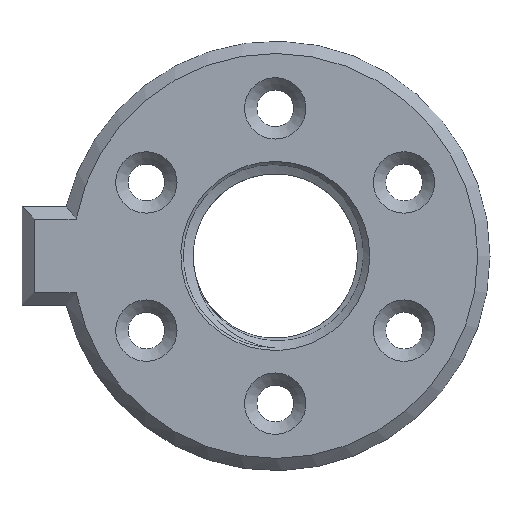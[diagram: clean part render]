
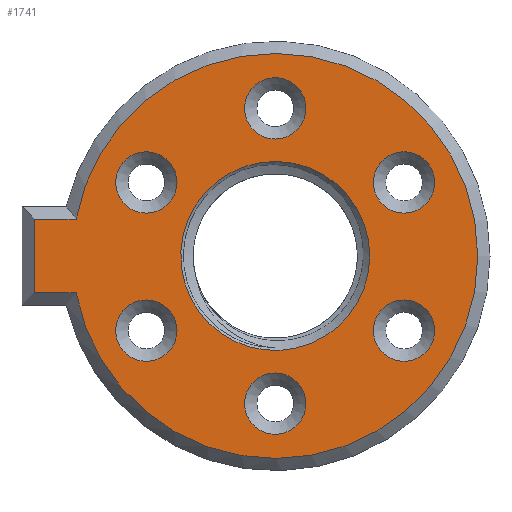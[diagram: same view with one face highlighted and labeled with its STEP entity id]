
A CAD part, top view. The second image highlights one B-rep face of the part: STEP entity #1741.
In plain terms, the highlighted planar face has unit normal (0, 0, 1).
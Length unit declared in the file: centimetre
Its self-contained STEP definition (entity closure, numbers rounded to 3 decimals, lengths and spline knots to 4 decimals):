
#104=VECTOR('',#587,1.);
#105=VECTOR('',#590,1.);
#106=VECTOR('',#591,1.);
#235=LINE('',#2322,#104);
#236=LINE('',#2327,#105);
#237=LINE('',#2329,#106);
#375=PLANE('',#468);
#434=CIRCLE('',#467,0.3175);
#435=CIRCLE('',#469,0.3175);
#436=CIRCLE('',#470,0.3175);
#437=CIRCLE('',#471,0.3175);
#438=CIRCLE('',#472,2.0955);
#439=CIRCLE('',#473,0.9779);
#440=CIRCLE('',#474,0.3175);
#441=CIRCLE('',#475,0.3175);
#467=AXIS2_PLACEMENT_3D('',#2313,#578,#579);
#468=AXIS2_PLACEMENT_3D('',#2315,#580,$);
#469=AXIS2_PLACEMENT_3D('',#2316,#581,#582);
#470=AXIS2_PLACEMENT_3D('',#2318,#583,#584);
#471=AXIS2_PLACEMENT_3D('',#2320,#585,#586);
#472=AXIS2_PLACEMENT_3D('',#2325,#588,#589);
#473=AXIS2_PLACEMENT_3D('',#2330,#592,#593);
#474=AXIS2_PLACEMENT_3D('',#2332,#594,#595);
#475=AXIS2_PLACEMENT_3D('',#2334,#596,#597);
#578=DIRECTION('',(0.,0.,1.));
#579=DIRECTION('',(-0.318,0.,0.));
#580=DIRECTION('',(0.,0.,1.));
#581=DIRECTION('',(0.,0.,1.));
#582=DIRECTION('',(-0.318,0.,0.));
#583=DIRECTION('',(0.,0.,1.));
#584=DIRECTION('',(-0.318,0.,0.));
#585=DIRECTION('',(0.,0.,1.));
#586=DIRECTION('',(-0.318,0.,0.));
#587=DIRECTION('',(-1.,0.,0.));
#588=DIRECTION('',(0.,0.,-1.));
#589=DIRECTION('',(2.095,-0.001,0.));
#590=DIRECTION('',(1.,0.,0.));
#591=DIRECTION('',(0.,1.,0.));
#592=DIRECTION('',(0.,0.,1.));
#593=DIRECTION('',(-0.978,0.,0.));
#594=DIRECTION('',(0.,0.,1.));
#595=DIRECTION('',(-0.318,0.,0.));
#596=DIRECTION('',(0.,0.,1.));
#597=DIRECTION('',(-0.318,0.,0.));
#868=VERTEX_POINT('',#2314);
#869=VERTEX_POINT('',#2317);
#870=VERTEX_POINT('',#2319);
#871=VERTEX_POINT('',#2321);
#872=VERTEX_POINT('',#2323);
#873=VERTEX_POINT('',#2324);
#874=VERTEX_POINT('',#2326);
#875=VERTEX_POINT('',#2328);
#876=VERTEX_POINT('',#2331);
#877=VERTEX_POINT('',#2333);
#878=VERTEX_POINT('',#2335);
#1002=EDGE_CURVE('',#868,#868,#434,.T.);
#1003=EDGE_CURVE('',#869,#869,#435,.T.);
#1004=EDGE_CURVE('',#870,#870,#436,.T.);
#1005=EDGE_CURVE('',#871,#871,#437,.T.);
#1006=EDGE_CURVE('',#872,#873,#235,.T.);
#1007=EDGE_CURVE('',#874,#872,#438,.T.);
#1008=EDGE_CURVE('',#875,#874,#236,.T.);
#1009=EDGE_CURVE('',#873,#875,#237,.T.);
#1010=EDGE_CURVE('',#876,#876,#439,.T.);
#1011=EDGE_CURVE('',#877,#877,#440,.T.);
#1012=EDGE_CURVE('',#878,#878,#441,.T.);
#1181=ORIENTED_EDGE('',*,*,#1003,.F.);
#1182=ORIENTED_EDGE('',*,*,#1004,.F.);
#1183=ORIENTED_EDGE('',*,*,#1005,.F.);
#1184=ORIENTED_EDGE('',*,*,#1006,.F.);
#1185=ORIENTED_EDGE('',*,*,#1007,.F.);
#1186=ORIENTED_EDGE('',*,*,#1008,.F.);
#1187=ORIENTED_EDGE('',*,*,#1009,.F.);
#1188=ORIENTED_EDGE('',*,*,#1010,.F.);
#1189=ORIENTED_EDGE('',*,*,#1011,.F.);
#1190=ORIENTED_EDGE('',*,*,#1012,.F.);
#1191=ORIENTED_EDGE('',*,*,#1002,.F.);
#1515=EDGE_LOOP('',(#1181));
#1516=EDGE_LOOP('',(#1182));
#1517=EDGE_LOOP('',(#1183));
#1518=EDGE_LOOP('',(#1184,#1185,#1186,#1187));
#1519=EDGE_LOOP('',(#1188));
#1520=EDGE_LOOP('',(#1189));
#1521=EDGE_LOOP('',(#1190));
#1522=EDGE_LOOP('',(#1191));
#1629=FACE_BOUND('',#1515,.T.);
#1630=FACE_BOUND('',#1516,.T.);
#1631=FACE_BOUND('',#1517,.T.);
#1632=FACE_BOUND('',#1518,.T.);
#1633=FACE_BOUND('',#1519,.T.);
#1634=FACE_BOUND('',#1520,.T.);
#1635=FACE_BOUND('',#1521,.T.);
#1636=FACE_BOUND('',#1522,.T.);
#1741=ADVANCED_FACE('',(#1629,#1630,#1631,#1632,#1633,#1634,#1635,#1636),
#375,.T.);
#2313=CARTESIAN_POINT('',(-1.3343,0.7607,0.508));
#2314=CARTESIAN_POINT('',(-1.0168,0.7607,0.508));
#2315=CARTESIAN_POINT('',(-0.3633,0.0001,0.508));
#2316=CARTESIAN_POINT('',(0.,-1.5287,0.508));
#2317=CARTESIAN_POINT('',(0.3175,-1.5287,0.508));
#2318=CARTESIAN_POINT('',(1.333,-0.7729,0.508));
#2319=CARTESIAN_POINT('',(1.6505,-0.7729,0.508));
#2320=CARTESIAN_POINT('',(0.,1.5275,0.508));
#2321=CARTESIAN_POINT('',(0.3175,1.5275,0.508));
#2322=CARTESIAN_POINT('',(-1.3778,-0.3802,0.508));
#2323=CARTESIAN_POINT('',(-2.0607,-0.3802,0.508));
#2324=CARTESIAN_POINT('',(-2.494,-0.3802,0.508));
#2325=CARTESIAN_POINT('',(0.,0.,0.508));
#2326=CARTESIAN_POINT('',(-2.0604,0.3818,0.508));
#2327=CARTESIAN_POINT('',(-1.3777,0.3818,0.508));
#2328=CARTESIAN_POINT('',(-2.494,0.3818,0.508));
#2329=CARTESIAN_POINT('',(-2.494,0.0004,0.508));
#2330=CARTESIAN_POINT('',(0.,0.,0.508));
#2331=CARTESIAN_POINT('',(0.9779,0.,0.508));
#2332=CARTESIAN_POINT('',(-1.3343,-0.7729,0.508));
#2333=CARTESIAN_POINT('',(-1.0168,-0.7729,0.508));
#2334=CARTESIAN_POINT('',(1.333,0.7607,0.508));
#2335=CARTESIAN_POINT('',(1.6505,0.7607,0.508));
